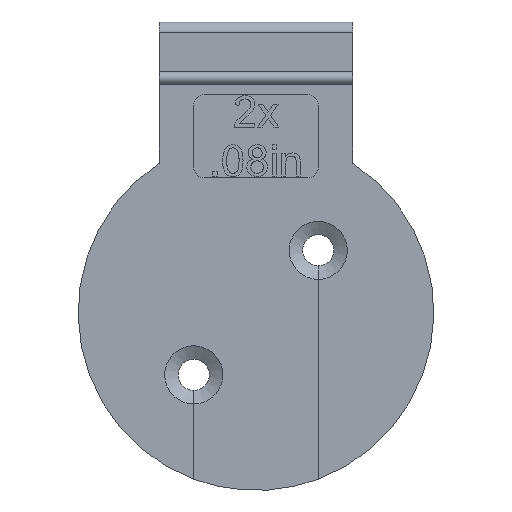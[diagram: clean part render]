
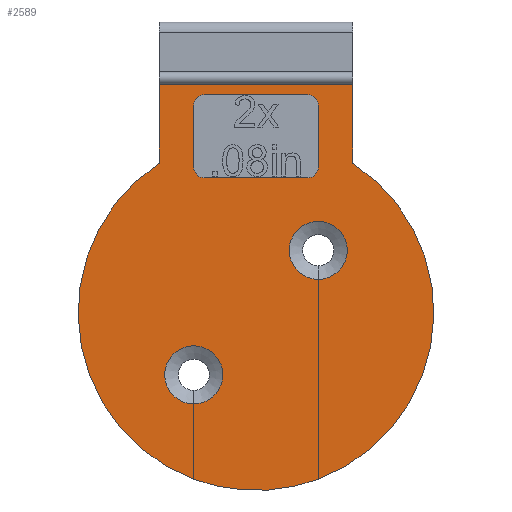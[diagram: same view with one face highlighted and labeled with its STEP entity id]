
A CAD part, left-side view. The second image highlights one B-rep face of the part: STEP entity #2589.
In plain terms, the highlighted planar face has unit normal (-1, 0, 0).
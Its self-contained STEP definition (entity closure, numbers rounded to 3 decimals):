
#73=CIRCLE('',#2692,0.5);
#74=CIRCLE('',#2695,0.5);
#75=CIRCLE('',#2698,0.5);
#76=CIRCLE('',#2701,0.5);
#78=CIRCLE('',#2710,1.4);
#86=CIRCLE('',#2724,8.57);
#87=CIRCLE('',#2725,8.57);
#88=CIRCLE('',#2726,1.4);
#89=CIRCLE('',#2727,8.57);
#120=FACE_BOUND('',#507,.T.);
#356=FACE_OUTER_BOUND('',#506,.T.);
#506=EDGE_LOOP('',(#2226,#2227,#2228,#2229,#2230,#2231,#2232,#2233,#2234,
#2235,#2236,#2237));
#507=EDGE_LOOP('',(#2238,#2239,#2240,#2241,#2242,#2243,#2244,#2245));
#696=LINE('',#4353,#939);
#699=LINE('',#4361,#942);
#702=LINE('',#4369,#945);
#705=LINE('',#4376,#948);
#713=LINE('',#4395,#956);
#715=LINE('',#4408,#958);
#726=LINE('',#4431,#969);
#734=LINE('',#4456,#977);
#738=LINE('',#4481,#981);
#739=LINE('',#4483,#982);
#740=LINE('',#4485,#983);
#939=VECTOR('',#3049,10.);
#942=VECTOR('',#3058,10.);
#945=VECTOR('',#3067,10.);
#948=VECTOR('',#3076,10.);
#956=VECTOR('',#3088,10.);
#958=VECTOR('',#3092,10.);
#969=VECTOR('',#3105,10.);
#977=VECTOR('',#3115,10.);
#981=VECTOR('',#3153,10.);
#982=VECTOR('',#3154,10.);
#983=VECTOR('',#3155,10.);
#1189=VERTEX_POINT('',#4346);
#1190=VERTEX_POINT('',#4348);
#1191=VERTEX_POINT('',#4352);
#1192=VERTEX_POINT('',#4356);
#1193=VERTEX_POINT('',#4360);
#1194=VERTEX_POINT('',#4364);
#1195=VERTEX_POINT('',#4368);
#1196=VERTEX_POINT('',#4372);
#1204=VERTEX_POINT('',#4392);
#1205=VERTEX_POINT('',#4394);
#1208=VERTEX_POINT('',#4403);
#1209=VERTEX_POINT('',#4407);
#1219=VERTEX_POINT('',#4428);
#1220=VERTEX_POINT('',#4430);
#1229=VERTEX_POINT('',#4451);
#1230=VERTEX_POINT('',#4455);
#1233=VERTEX_POINT('',#4478);
#1234=VERTEX_POINT('',#4480);
#1235=VERTEX_POINT('',#4482);
#1236=VERTEX_POINT('',#4484);
#1521=EDGE_CURVE('',#1190,#1189,#73,.T.);
#1523=EDGE_CURVE('',#1191,#1190,#696,.T.);
#1525=EDGE_CURVE('',#1192,#1191,#74,.T.);
#1527=EDGE_CURVE('',#1193,#1192,#699,.T.);
#1529=EDGE_CURVE('',#1194,#1193,#75,.T.);
#1531=EDGE_CURVE('',#1195,#1194,#702,.T.);
#1533=EDGE_CURVE('',#1196,#1195,#76,.T.);
#1535=EDGE_CURVE('',#1189,#1196,#705,.T.);
#1543=EDGE_CURVE('',#1205,#1204,#713,.T.);
#1547=EDGE_CURVE('',#1209,#1208,#715,.T.);
#1558=EDGE_CURVE('',#1220,#1219,#726,.T.);
#1568=EDGE_CURVE('',#1230,#1229,#734,.T.);
#1573=EDGE_CURVE('',#1204,#1209,#78,.T.);
#1581=EDGE_CURVE('',#1233,#1208,#86,.T.);
#1582=EDGE_CURVE('',#1234,#1233,#738,.T.);
#1583=EDGE_CURVE('',#1235,#1234,#739,.T.);
#1584=EDGE_CURVE('',#1236,#1235,#740,.T.);
#1585=EDGE_CURVE('',#1220,#1236,#87,.T.);
#1586=EDGE_CURVE('',#1219,#1230,#88,.T.);
#1587=EDGE_CURVE('',#1205,#1229,#89,.T.);
#2226=ORIENTED_EDGE('',*,*,#1543,.T.);
#2227=ORIENTED_EDGE('',*,*,#1573,.T.);
#2228=ORIENTED_EDGE('',*,*,#1547,.T.);
#2229=ORIENTED_EDGE('',*,*,#1581,.F.);
#2230=ORIENTED_EDGE('',*,*,#1582,.F.);
#2231=ORIENTED_EDGE('',*,*,#1583,.F.);
#2232=ORIENTED_EDGE('',*,*,#1584,.F.);
#2233=ORIENTED_EDGE('',*,*,#1585,.F.);
#2234=ORIENTED_EDGE('',*,*,#1558,.T.);
#2235=ORIENTED_EDGE('',*,*,#1586,.T.);
#2236=ORIENTED_EDGE('',*,*,#1568,.T.);
#2237=ORIENTED_EDGE('',*,*,#1587,.F.);
#2238=ORIENTED_EDGE('',*,*,#1521,.T.);
#2239=ORIENTED_EDGE('',*,*,#1535,.T.);
#2240=ORIENTED_EDGE('',*,*,#1533,.T.);
#2241=ORIENTED_EDGE('',*,*,#1531,.T.);
#2242=ORIENTED_EDGE('',*,*,#1529,.T.);
#2243=ORIENTED_EDGE('',*,*,#1527,.T.);
#2244=ORIENTED_EDGE('',*,*,#1525,.T.);
#2245=ORIENTED_EDGE('',*,*,#1523,.T.);
#2463=PLANE('',#2723);
#2589=ADVANCED_FACE('',(#356,#120),#2463,.F.);
#2692=AXIS2_PLACEMENT_3D('',#4349,#3044,#3045);
#2695=AXIS2_PLACEMENT_3D('',#4357,#3053,#3054);
#2698=AXIS2_PLACEMENT_3D('',#4365,#3062,#3063);
#2701=AXIS2_PLACEMENT_3D('',#4373,#3071,#3072);
#2710=AXIS2_PLACEMENT_3D('',#4464,#3123,#3124);
#2723=AXIS2_PLACEMENT_3D('',#4477,#3149,#3150);
#2724=AXIS2_PLACEMENT_3D('',#4479,#3151,#3152);
#2725=AXIS2_PLACEMENT_3D('',#4486,#3156,#3157);
#2726=AXIS2_PLACEMENT_3D('',#4487,#3158,#3159);
#2727=AXIS2_PLACEMENT_3D('',#4488,#3160,#3161);
#3044=DIRECTION('center_axis',(1.,0.,0.));
#3045=DIRECTION('ref_axis',(0.,0.,-1.));
#3049=DIRECTION('',(0.,0.,1.));
#3053=DIRECTION('center_axis',(1.,0.,0.));
#3054=DIRECTION('ref_axis',(0.,-1.,0.));
#3058=DIRECTION('',(0.,1.,0.));
#3062=DIRECTION('center_axis',(1.,0.,0.));
#3063=DIRECTION('ref_axis',(0.,0.,
1.));
#3067=DIRECTION('',(0.,0.,-1.));
#3071=DIRECTION('center_axis',(1.,0.,0.));
#3072=DIRECTION('ref_axis',(0.,1.,0.));
#3076=DIRECTION('',(0.,-1.,0.));
#3088=DIRECTION('',(0.,0.,1.));
#3092=DIRECTION('',(0.,0.,-1.));
#3105=DIRECTION('',(0.,0.,1.));
#3115=DIRECTION('',(0.,0.,-1.));
#3123=DIRECTION('center_axis',(1.,0.,0.));
#3124=DIRECTION('ref_axis',(0.,0.,1.));
#3149=DIRECTION('center_axis',(1.,0.,0.));
#3150=DIRECTION('ref_axis',(0.,0.,-1.));
#3151=DIRECTION('center_axis',(1.,0.,0.));
#3152=DIRECTION('ref_axis',(0.,0.,-1.));
#3153=DIRECTION('',(0.,0.,-1.));
#3154=DIRECTION('',(0.,-1.,0.));
#3155=DIRECTION('',(0.,0.,1.));
#3156=DIRECTION('center_axis',(1.,0.,0.));
#3157=DIRECTION('ref_axis',(0.,0.,-1.));
#3158=DIRECTION('center_axis',(1.,0.,0.));
#3159=DIRECTION('ref_axis',(0.,0.,-1.));
#3160=DIRECTION('center_axis',(1.,0.,0.));
#3161=DIRECTION('ref_axis',(0.,0.,-1.));
#4346=CARTESIAN_POINT('',(-0.8,2.5,10.5));
#4348=CARTESIAN_POINT('',(-0.8,3.,10.));
#4349=CARTESIAN_POINT('Origin',(-0.8,2.5,10.));
#4352=CARTESIAN_POINT('',(-0.8,3.,7.));
#4353=CARTESIAN_POINT('',(-0.8,3.,5.));
#4356=CARTESIAN_POINT('',(-0.8,2.5,6.5));
#4357=CARTESIAN_POINT('Origin',(-0.8,2.5,7.));
#4360=CARTESIAN_POINT('',(-0.8,-2.5,6.5));
#4361=CARTESIAN_POINT('',(-0.8,1.25,6.5));
#4364=CARTESIAN_POINT('',(-0.8,-3.,7.));
#4365=CARTESIAN_POINT('Origin',(-0.8,-2.5,7.));
#4368=CARTESIAN_POINT('',(-0.8,-3.,10.));
#4369=CARTESIAN_POINT('',(-0.8,-3.,3.5));
#4372=CARTESIAN_POINT('',(-0.8,-2.5,10.5));
#4373=CARTESIAN_POINT('Origin',(-0.8,-2.5,10.));
#4376=CARTESIAN_POINT('',(-0.8,-1.25,10.5));
#4392=CARTESIAN_POINT('',(-0.8,-2.995,1.6));
#4394=CARTESIAN_POINT('',(-0.8,-2.995,-8.03));
#4395=CARTESIAN_POINT('',(-0.8,-2.995,-4.015));
#4403=CARTESIAN_POINT('',(-0.8,-3.005,-8.026));
#4407=CARTESIAN_POINT('',(-0.8,-3.005,1.6));
#4408=CARTESIAN_POINT('',(-0.8,-3.005,1.125));
#4428=CARTESIAN_POINT('',(-0.8,3.005,-4.4));
#4430=CARTESIAN_POINT('',(-0.8,3.005,-8.026));
#4431=CARTESIAN_POINT('',(-0.8,3.005,-4.013));
#4451=CARTESIAN_POINT('',(-0.8,2.995,-8.03));
#4455=CARTESIAN_POINT('',(-0.8,2.995,-4.4));
#4456=CARTESIAN_POINT('',(-0.8,2.995,-1.875));
#4464=CARTESIAN_POINT('Origin',(-0.8,-3.,3.));
#4477=CARTESIAN_POINT('Origin',(-0.8,0.,
0.));
#4478=CARTESIAN_POINT('',(-0.8,-4.65,7.199));
#4479=CARTESIAN_POINT('Origin',(-0.8,0.,
0.));
#4480=CARTESIAN_POINT('',(-0.8,-4.65,11.));
#4481=CARTESIAN_POINT('',(-0.8,-4.65,7.115));
#4482=CARTESIAN_POINT('',(-0.8,4.65,11.));
#4483=CARTESIAN_POINT('',(-0.8,-2.325,11.));
#4484=CARTESIAN_POINT('',(-0.8,4.65,7.199));
#4485=CARTESIAN_POINT('',(-0.8,4.65,11.));
#4486=CARTESIAN_POINT('Origin',(-0.8,0.,
0.));
#4487=CARTESIAN_POINT('Origin',(-0.8,3.,-3.));
#4488=CARTESIAN_POINT('Origin',(-0.8,0.,
0.));
